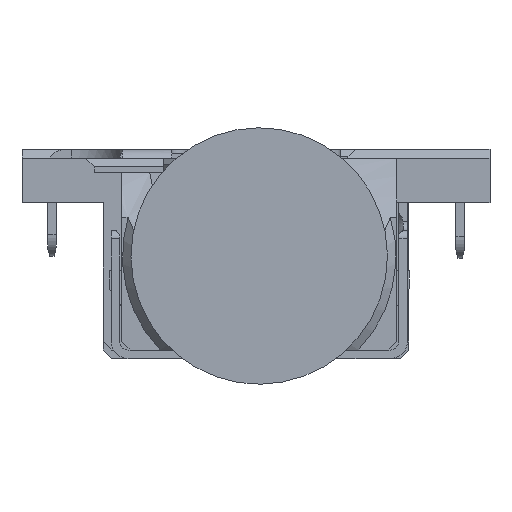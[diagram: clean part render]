
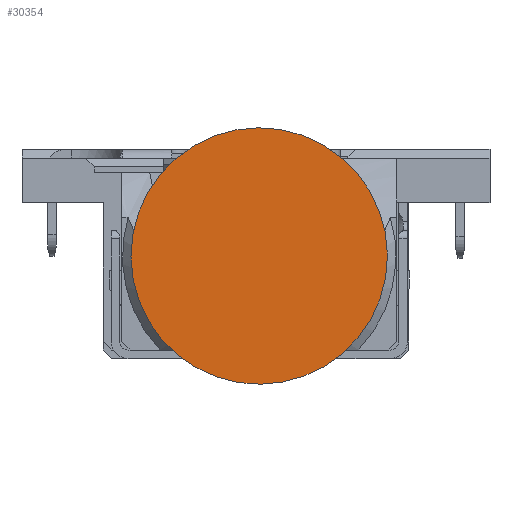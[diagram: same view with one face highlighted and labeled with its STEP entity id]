
A CAD part, front view. The second image highlights one B-rep face of the part: STEP entity #30354.
In plain terms, the highlighted planar face has unit normal (0, -1, 0) as drawn and (0, 0, 1) by its records, which use the part's own axes.
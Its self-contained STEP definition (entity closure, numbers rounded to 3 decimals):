
#29713=CARTESIAN_POINT('',(0.,0.,2.));
#29714=DIRECTION('',(0.,0.,1.));
#29715=DIRECTION('',(1.,0.,0.));
#29716=AXIS2_PLACEMENT_3D('',#29713,#29714,#29715);
#29718=CARTESIAN_POINT('',(0.,0.,2.));
#29719=DIRECTION('',(0.,0.,1.));
#29720=DIRECTION('',(-1.,0.,0.));
#29721=AXIS2_PLACEMENT_3D('',#29718,#29719,#29720);
#29805=CARTESIAN_POINT('',(3.,0.,2.));
#29806=CARTESIAN_POINT('',(-3.,0.,2.));
#29807=VERTEX_POINT('',#29805);
#29808=VERTEX_POINT('',#29806);
#30345=CARTESIAN_POINT('',(0.,0.,2.));
#30346=DIRECTION('',(0.,0.,1.));
#30347=DIRECTION('',(1.,0.,0.));
#30348=AXIS2_PLACEMENT_3D('',#30345,#30346,#30347);
#30349=PLANE('',#30348);
#30350=ORIENTED_EDGE('',*,*,#30325,.F.);
#30351=ORIENTED_EDGE('',*,*,#30338,.F.);
#30352=EDGE_LOOP('',(#30350,#30351));
#30353=FACE_OUTER_BOUND('',#30352,.F.);
#29717=CIRCLE('',#29716,3.);
#29722=CIRCLE('',#29721,3.);
#30325=EDGE_CURVE('',#29807,#29808,#29717,.T.);
#30338=EDGE_CURVE('',#29808,#29807,#29722,.T.);
#30354=ADVANCED_FACE('',(#30353),#30349,.T.);
